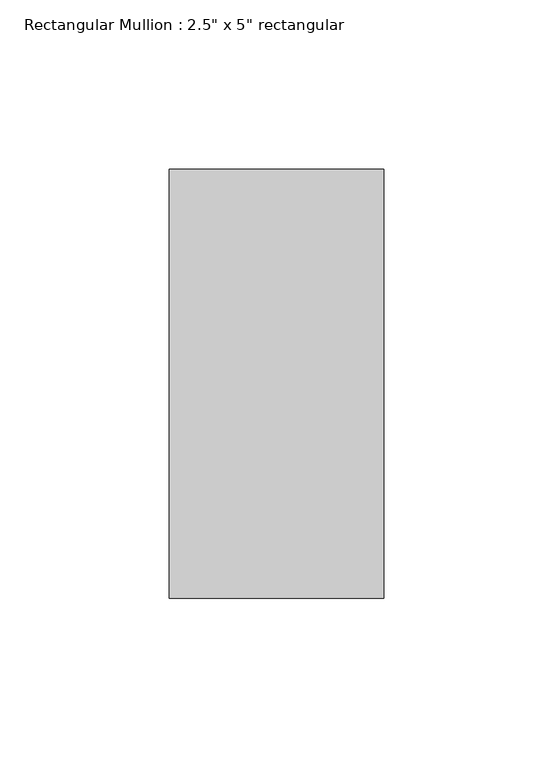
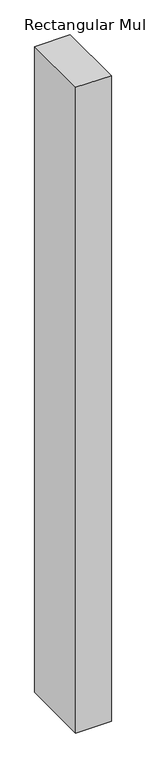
"""IFC4 building model written with IfcOpenShell, lengths in millimetres: member geometry."""

from ifc_helpers import new_model, si_unit, frame, origin, place, context, project, spatial, polyline, outline, extrude, source, transform, mapped, element, save


def member_2b49869a(model_context):
    return source(origin(), model_context, "Body", "SweptSolid", [
        extrude(outline(polyline([(31.75, 63.5), (31.75, -63.5), (-31.75, -63.5), (-31.75, 63.5), (31.75, 63.5)])), frame((0.0, 0.0, -1219.2), z_axis=(0.0, 0.0, 1.0), x_axis=(1.0, 0.0, 0.0)), (0.0, 0.0, 1.0), 1219.2),
    ])


if __name__ == "__main__":
    model = new_model("IFC4")
    model_context = context("Model", 3, world=origin())
    ifc_project = project(units=[si_unit("LENGTHUNIT", "METRE", prefix="MILLI")], contexts=[model_context])
    site = spatial("IfcSite", under=ifc_project)
    building = spatial("IfcBuilding", under=site)
    placement = place(None, origin())
    member_shape = member_2b49869a(model_context)
    element("IfcMember", 1, ObjectType="Rectangular Mullion : 2.5\" x 5\" rectangular", at=placement, inside=building, context=model_context, shape_type="MappedRepresentation", body=[
        mapped(member_shape, transform((0.0, 0.0, 0.0), x_axis=(1.0, 0.0, 0.0), y_axis=(0.0, 1.0, 0.0), z_axis=(0.0, 0.0, 1.0))),
    ])
    save(model, "model.ifc")
